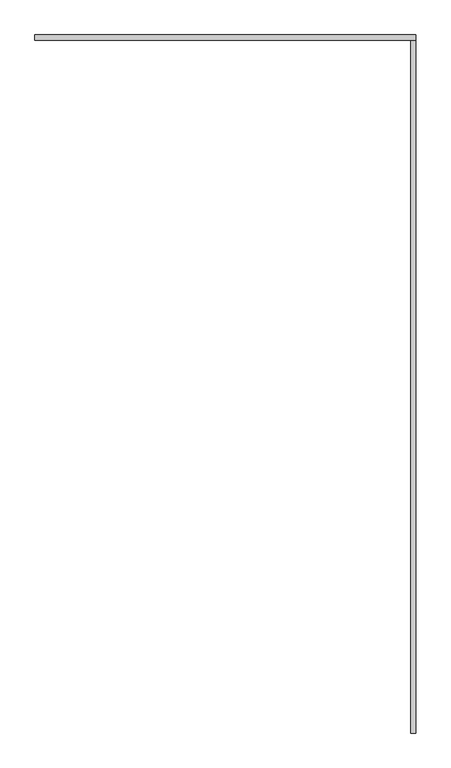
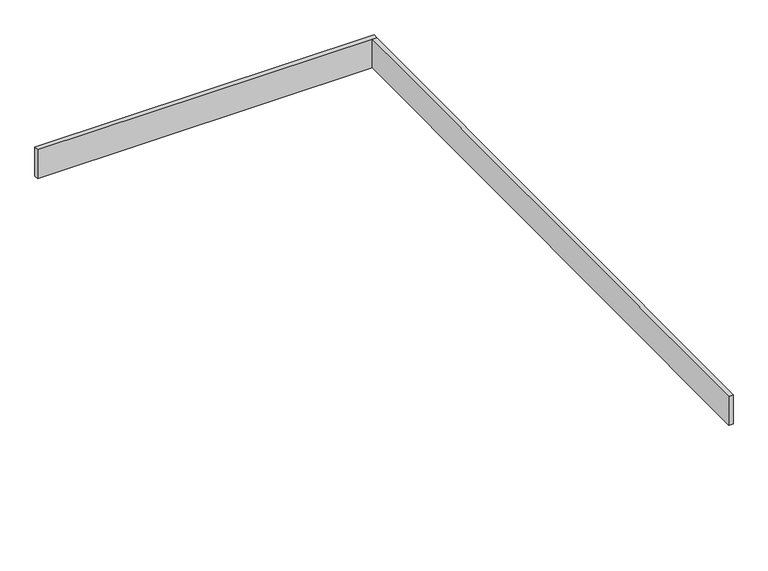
"""IFC4 building model written with IfcOpenShell, lengths in millimetres: railing geometry, Einfassung, Abschluss Grünfläche."""

from ifc_helpers import new_model, si_unit, frame, origin, place, context, project, spatial, polyline, outline, extrude, source, transform, mapped, element, save


def railing_8559cf88(model_context):
    return source(origin(), model_context, "Body", "SweptSolid", [
        extrude(outline(polyline([(2073.9710847, -678.9886736), (2073.9710847, -618.9886736), (6513.1107384, -618.9886736), (6513.1107384, -678.9886736), (2073.9710847, -678.9886736)])), frame((0.0, 0.0, 650.0), z_axis=(0.0, 0.0, 1.0), x_axis=(1.0, 0.0, 0.0)), (0.0, 0.0, 1.0), 400.0),
        extrude(outline(polyline([(-678.9886736, 1049.6389956), (-678.9886736, 649.6314496), (-8758.9886736, 600.0), (-8758.9886736, 1000.007546), (-678.9886736, 1049.6389956)])), frame((6453.1107384, 0.0, 0.0), z_axis=(1.0, 0.0, 0.0), x_axis=(0.0, 1.0, 0.0)), (0.0, 0.0, 1.0), 60.0),
    ])


if __name__ == "__main__":
    model = new_model("IFC4")
    model_context = context("Model", 3, world=origin())
    ifc_project = project(units=[si_unit("LENGTHUNIT", "METRE", prefix="MILLI")], contexts=[model_context])
    site = spatial("IfcSite", under=ifc_project)
    building = spatial("IfcBuilding", under=site)
    placement = place(None, origin())
    railing_shape = railing_8559cf88(model_context)
    element("IfcRailing", 1, ObjectType="Einfassung, Abschluss Grünfläche", at=placement, inside=building, context=model_context, shape_type="MappedRepresentation", body=[
        mapped(railing_shape, transform((0.0, 0.0, 0.0), x_axis=(1.0, 0.0, 0.0), y_axis=(0.0, 1.0, 0.0), z_axis=(0.0, 0.0, 1.0))),
    ])
    save(model, "model.ifc")
